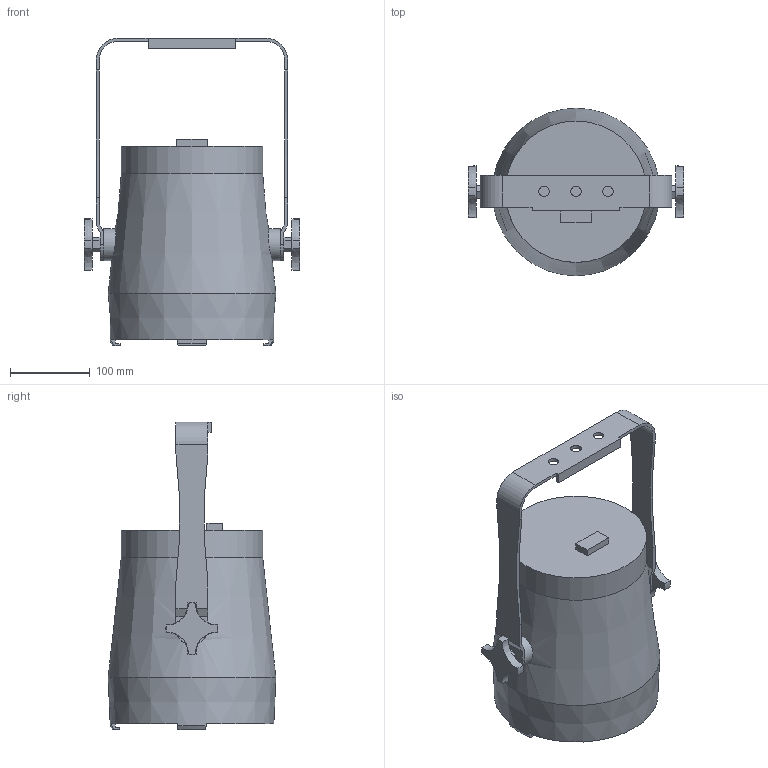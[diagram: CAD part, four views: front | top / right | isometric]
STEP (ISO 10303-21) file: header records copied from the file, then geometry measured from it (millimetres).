
FILE_DESCRIPTION(/* description */ (''),/* implementation_level */ '2;1');
FILE_NAME(/* name */ 'D:/dgooch/Documents/CADENG/PRO/COLORado 3 Solo/0/3D/COLORADO 2 SOLO_0.step',/* time_stamp */ '2019-09-11T09:53:22-04:00',/* author */ (''),/* organization */ (''),/* preprocessor_version */ 'ST-DEVELOPER v18',/* originating_system */ 'Autodesk Translation Framework v8.6.0.1094',/* authorisation */ '');
FILE_SCHEMA (('AUTOMOTIVE_DESIGN { 1 0 10303 214 3 1 1 }'));
Length unit declared in the file: millimetre
Products named in the file (4): COLORADO2SOLO; Bracket; RD-SS354XCEM-009-A; Main
Assembly tree (3 placements, depth 3):
  COLORADO2SOLO
    Bracket
      RD-SS354XCEM-009-A
    Main
Bounding box: 269.93 x 209.76 x 385.4 mm (x, y, z)
Volume: 7292603.8 mm3; surface area: 306986.1 mm2
Topology: 3 solids, 3 shells, 113 faces, 299 edges, 200 vertices
Faces by surface type: plane 72, cone 21, cylinder 20
Full cylindrical faces by diameter (mm): 9.8 x3, 13 x3, 40 x2, 171 x1, 176.944 x1
Entity records: 3793 total; most frequent: CARTESIAN_POINT 858, ORIENTED_EDGE 598, DIRECTION 584, EDGE_CURVE 299, AXIS2_PLACEMENT_3D 201, VERTEX_POINT 200, LINE 182, VECTOR 182
